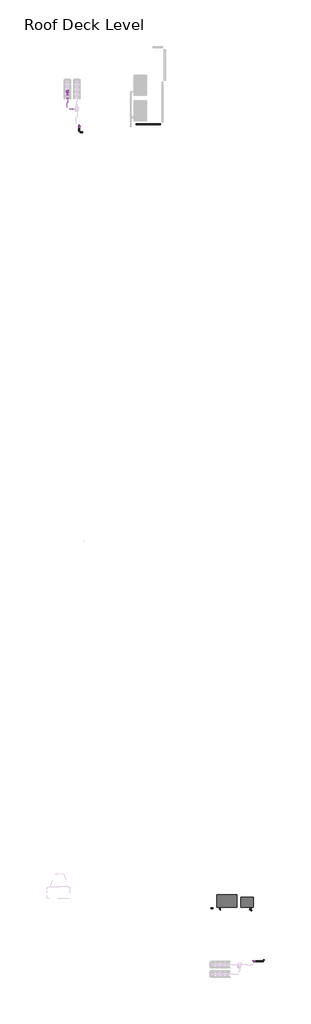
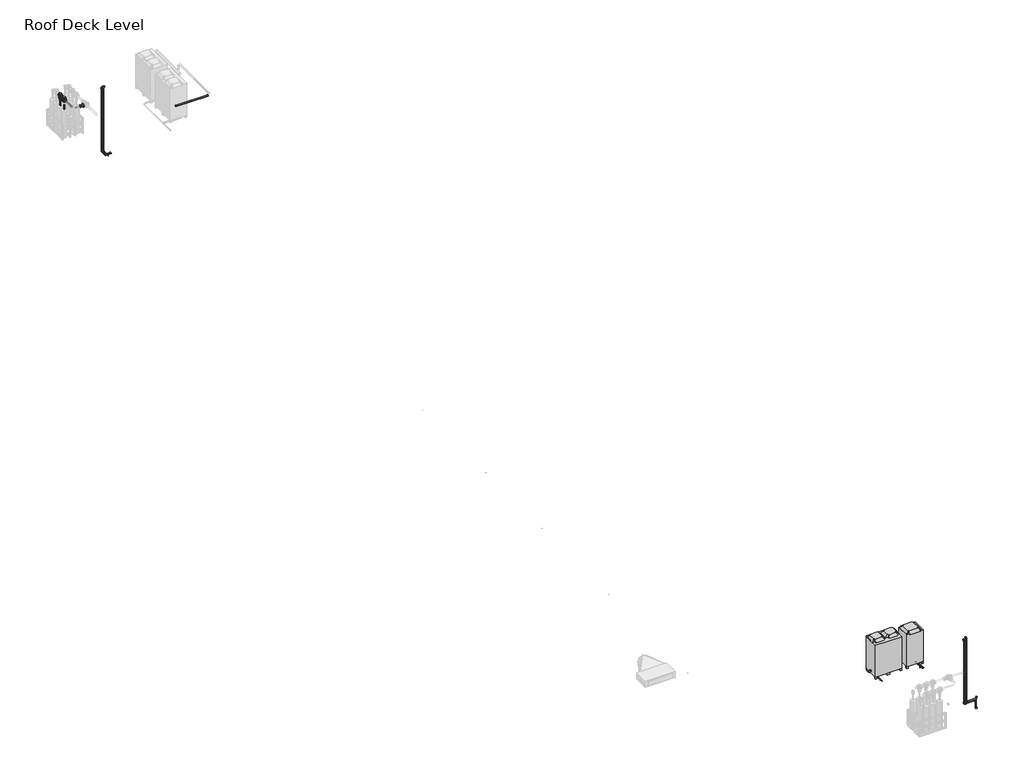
# One storey, part 2 of 3: 27 pipe fittings, 27 pipe segments, 2 proxies.
"""IFC4 building model written with IfcOpenShell, lengths in millimetres."""

from ifc_helpers import new_model, si_unit, point, frame, frame_2d, origin, place, context, project, spatial, circle_curve, trimmed, segment, composite_curve, outline, extrude, transform, mapped, element, save
from components import mechanical_equipment_0a6ad74e, mechanical_equipment_ce02502f, m_bend_pvc_sch_40_dwv_standard_cad9babd, m_elbow_generic_standard_bb5ffebe, m_elbow_generic_standard_738589b0, m_elbow_generic_standard_f0c60a04, m_reducer_flanged_cs_class_150_standard_6ae1fdcb, m_reducer_flanged_cs_class_150_standard_777fbdd8, m_tee_generic_standard_5078887e, m_tee_generic_standard_bbfc025c, m_tee_round_base_flanged_cs_class_150_standard_9c9133d0, m_transition_generic_standard_a7d161d7, m_transition_generic_standard_5f8a9689, m_transition_generic_standard_2351da66, m_transition_generic_standard_22c7c9f4, m_transition_generic_standard_e868cdd7, standard_57727813, standard_102e5625

model = new_model("IFC4")

# Units and contexts
model_context = context("Model", 3, world=origin())
ifc_project = project(units=[si_unit("LENGTHUNIT", "METRE", prefix="MILLI")], contexts=[model_context])

# Site, building, storey
site = spatial("IfcSite", under=ifc_project)
building = spatial("IfcBuilding", under=site)
storey = spatial("IfcBuildingStorey", under=building, Name="Roof Deck Level", Elevation=4400.0)

# Proxies
placement = place(None, origin())
mechanical_equipment_shape = mechanical_equipment_0a6ad74e(model_context)
element("IfcBuildingElementProxy", 1, Name="Condenser-Daikin-RXYQ5-8-10-12P : INVALID TYPE - Use Load Family and Type Catalog Instead", ObjectType="Condenser-Daikin-RXYQ5-8-10-12P : INVALID TYPE - Use Load Family and Type Catalog Instead", at=placement, inside=storey, context=model_context, shape_type="MappedRepresentation", body=[
    mapped(mechanical_equipment_shape, transform((4557.5244316, -32172.0946353, 4650.0), x_axis=(0.0, 1.0, 0.0), y_axis=(-1.0, 0.0, 0.0), z_axis=(0.0, 0.0, 1.0))),
])
mechanical_equipment_2_shape = mechanical_equipment_ce02502f(model_context)
element("IfcBuildingElementProxy", 2, Name="Condenser-Daikin-RXYQ14-16-18P : RXYQ14P, 400v/50Hz/3Ph", ObjectType="Condenser-Daikin-RXYQ14-16-18P : RXYQ14P, 400v/50Hz/3Ph", at=placement, inside=storey, context=model_context, shape_type="MappedRepresentation", body=[
    mapped(mechanical_equipment_2_shape, transform((3320.1659448, -32107.0946353, 4650.0), x_axis=(1.0, 0.0, 0.0), y_axis=(0.0, 1.0, 0.0), z_axis=(0.0, 0.0, 1.0))),
])

# Pipe fittings
m_bend_pvc_sch_40_dwv_standard_shape = m_bend_pvc_sch_40_dwv_standard_cad9babd(model_context)
element("IfcPipeFitting", 3, ObjectType="M_Bend - PVC - Sch 40 - DWV : Standard", at=placement, inside=storey, context=model_context, shape_type="MappedRepresentation", body=[
    mapped(m_bend_pvc_sch_40_dwv_standard_shape, transform((2381.9230162, -32554.2948449, 5200.0), x_axis=(-1.0, 0.0, 0.0), y_axis=(0.0, 0.0, -1.0), z_axis=(0.0, -1.0, 0.0))),
])
m_elbow_generic_standard_shape = m_elbow_generic_standard_bb5ffebe(model_context)
element("IfcPipeFitting", 4, ObjectType="M_Elbow - Generic : Standard", at=placement, inside=storey, context=model_context, shape_type="MappedRepresentation", body=[
    mapped(m_elbow_generic_standard_shape, transform((2867.2893107, -32322.8712695, 4621.4908765), x_axis=(-1.0, 0.0, 0.0), y_axis=(0.0, -1.0, 0.0), z_axis=(0.0, 0.0, 1.0))),
])
element("IfcPipeFitting", 5, ObjectType="M_Elbow - Generic : Standard", at=placement, inside=storey, context=model_context, shape_type="MappedRepresentation", body=[
    mapped(m_elbow_generic_standard_shape, transform((2911.2893107, -32322.8712695, 4621.4908765), x_axis=(0.0, 0.0, -1.0), y_axis=(-1.0, 0.0, 0.0), z_axis=(0.0, 1.0, 0.0))),
])
m_elbow_generic_standard_2_shape = m_elbow_generic_standard_738589b0(model_context)
element("IfcPipeFitting", 6, ObjectType="M_Elbow - Generic : Standard", at=placement, inside=storey, context=model_context, shape_type="MappedRepresentation", body=[
    mapped(m_elbow_generic_standard_2_shape, transform((4741.5205946, -32248.2907983, 4621.4908765), x_axis=(0.0, 0.0, -1.0), y_axis=(0.0, -1.0, 0.0), z_axis=(-1.0, 0.0, 0.0))),
])
element("IfcPipeFitting", 7, ObjectType="M_Elbow - Generic : Standard", at=placement, inside=storey, context=model_context, shape_type="MappedRepresentation", body=[
    mapped(m_elbow_generic_standard_2_shape, transform((4827.3282685, -32333.9984723, 4591.0863665), x_axis=(0.0, 0.0, -1.0), y_axis=(0.0, -1.0, 0.0), z_axis=(-1.0, 0.0, 0.0))),
])
m_elbow_generic_standard_3_shape = m_elbow_generic_standard_f0c60a04(model_context)
element("IfcPipeFitting", 8, ObjectType="M_Elbow - Generic : Standard", at=placement, inside=storey, context=model_context, shape_type="MappedRepresentation", body=[
    mapped(m_elbow_generic_standard_3_shape, transform((2911.3621079, -32360.9984723, 4591.0863665), x_axis=(0.0, 0.0, -1.0), y_axis=(0.0, -1.0, 0.0), z_axis=(-1.0, 0.0, 0.0))),
])
m_reducer_flanged_cs_class_150_standard_shape = m_reducer_flanged_cs_class_150_standard_6ae1fdcb(model_context)
element("IfcPipeFitting", 9, ObjectType="M_Reducer - Flanged - CS - Class 150 : Standard", at=placement, inside=storey, context=model_context, shape_type="MappedRepresentation", body=[
    mapped(m_reducer_flanged_cs_class_150_standard_shape, transform((-6562.8546656, 17889.6611936, 6293.9014063), x_axis=(0.0, 0.0, -1.0), y_axis=(-1.0, 0.0, 0.0), z_axis=(0.0, 1.0, 0.0))),
])
m_reducer_flanged_cs_class_150_standard_2_shape = m_reducer_flanged_cs_class_150_standard_777fbdd8(model_context)
element("IfcPipeFitting", 10, ObjectType="M_Reducer - Flanged - CS - Class 150 : Standard", at=placement, inside=storey, context=model_context, shape_type="MappedRepresentation", body=[
    mapped(m_reducer_flanged_cs_class_150_standard_2_shape, transform((-6105.130502, 16818.7625998, 6400.0), x_axis=(-1.0, 0.0, 0.0), y_axis=(0.0, -1.0, 0.0), z_axis=(0.0, 0.0, 1.0))),
])
m_tee_generic_standard_shape = m_tee_generic_standard_5078887e(model_context)
element("IfcPipeFitting", 11, ObjectType="M_Tee - Generic : Standard", at=placement, inside=storey, context=model_context, shape_type="MappedRepresentation", body=[
    mapped(m_tee_generic_standard_shape, transform((4827.3282685, -32691.5527522, 4591.0863665), x_axis=(1.0, 0.0, 0.0), y_axis=(0.0, -1.0, 0.0), z_axis=(0.0, 0.0, -1.0))),
])
m_tee_generic_standard_2_shape = m_tee_generic_standard_bbfc025c(model_context)
element("IfcPipeFitting", 12, ObjectType="M_Tee - Generic : Standard", at=placement, inside=storey, context=model_context, shape_type="MappedRepresentation", body=[
    mapped(m_tee_generic_standard_2_shape, transform((4741.5205946, -32638.716218, 4621.4908765), x_axis=(-1.0, 0.0, 0.0), y_axis=(0.0, -1.0, 0.0), z_axis=(0.0, 0.0, 1.0))),
])
m_tee_round_base_flanged_cs_class_150_standard_shape = m_tee_round_base_flanged_cs_class_150_standard_9c9133d0(model_context)
element("IfcPipeFitting", 13, ObjectType="M_Tee Round Base - Flanged - CS - Class 150 : Standard", at=placement, inside=storey, context=model_context, shape_type="MappedRepresentation", body=[
    mapped(m_tee_round_base_flanged_cs_class_150_standard_shape, transform((-6562.8546656, 17889.6611936, 6400.0), x_axis=(0.0, 1.0, 0.0), y_axis=(0.0, 0.0, 1.0), z_axis=(1.0, 0.0, 0.0))),
])
element("IfcPipeFitting", 14, ObjectType="M_Tee Round Base - Flanged - CS - Class 150 : Standard", at=placement, inside=storey, context=model_context, shape_type="MappedRepresentation", body=[
    mapped(m_tee_round_base_flanged_cs_class_150_standard_shape, transform((-6562.8546656, 17584.8611936, 6400.0), x_axis=(0.0, -1.0, 0.0), y_axis=(0.0, 0.0, 1.0), z_axis=(-1.0, 0.0, 0.0))),
])
m_transition_generic_standard_shape = m_transition_generic_standard_a7d161d7(model_context)
element("IfcPipeFitting", 15, ObjectType="M_Transition - Generic : Standard", at=placement, inside=storey, context=model_context, shape_type="MappedRepresentation", body=[
    mapped(m_transition_generic_standard_shape, transform((4803.5157685, -32691.5527522, 4591.0863665), x_axis=(-1.0, 0.0, 0.0), y_axis=(0.0, -1.0, 0.0), z_axis=(0.0, 0.0, 1.0))),
])
m_transition_generic_standard_2_shape = m_transition_generic_standard_5f8a9689(model_context)
element("IfcPipeFitting", 16, ObjectType="M_Transition - Generic : Standard", at=placement, inside=storey, context=model_context, shape_type="MappedRepresentation", body=[
    mapped(m_transition_generic_standard_2_shape, transform((4851.1407685, -32691.5527522, 4591.0863665), x_axis=(1.0, 0.0, 0.0), y_axis=(0.0, 1.0, 0.0), z_axis=(0.0, 0.0, 1.0))),
])
m_transition_generic_standard_3_shape = m_transition_generic_standard_2351da66(model_context)
element("IfcPipeFitting", 17, ObjectType="M_Transition - Generic : Standard", at=placement, inside=storey, context=model_context, shape_type="MappedRepresentation", body=[
    mapped(m_transition_generic_standard_3_shape, transform((4741.5205946, -32613.316218, 4621.4908765), x_axis=(0.0, 1.0, 0.0), y_axis=(-1.0, 0.0, 0.0), z_axis=(0.0, 0.0, 1.0))),
])
m_transition_generic_standard_4_shape = m_transition_generic_standard_22c7c9f4(model_context)
element("IfcPipeFitting", 18, ObjectType="M_Transition - Generic : Standard", at=placement, inside=storey, context=model_context, shape_type="MappedRepresentation", body=[
    mapped(m_transition_generic_standard_4_shape, transform((4716.1205946, -32638.716218, 4621.4908765), x_axis=(-1.0, 0.0, 0.0), y_axis=(0.0, -1.0, 0.0), z_axis=(0.0, 0.0, 1.0))),
])
m_transition_generic_standard_5_shape = m_transition_generic_standard_e868cdd7(model_context)
element("IfcPipeFitting", 19, ObjectType="M_Transition - Generic : Standard", at=placement, inside=storey, context=model_context, shape_type="MappedRepresentation", body=[
    mapped(m_transition_generic_standard_5_shape, transform((2911.3621079, -32360.9984723, 4708.7502), x_axis=(0.0, 0.0, 1.0), y_axis=(0.0, 1.0, 0.0), z_axis=(-1.0, 0.0, 0.0))),
])
standard_shape = standard_57727813(model_context)
element("IfcPipeFitting", 20, ObjectType="M_Elbow - CPVC - Sch 40 : Standard", at=placement, inside=storey, context=model_context, shape_type="MappedRepresentation", body=[
    mapped(standard_shape, transform((5045.1617227, -35819.459752, 4719.8375), x_axis=(-1.0, 0.0, 0.0), y_axis=(0.0, 0.0, 1.0), z_axis=(0.0, 1.0, 0.0))),
])
element("IfcPipeFitting", 21, ObjectType="M_Elbow - CPVC - Sch 40 : Standard", at=placement, inside=storey, context=model_context, shape_type="MappedRepresentation", body=[
    mapped(standard_shape, transform((5045.1617227, -35819.459752, 7892.2), x_axis=(0.0, 0.0, 1.0), y_axis=(0.0, 1.0, 0.0), z_axis=(-1.0, 0.0, 0.0))),
])
element("IfcPipeFitting", 22, ObjectType="M_Elbow - CPVC - Sch 40 : Standard", at=placement, inside=storey, context=model_context, shape_type="MappedRepresentation", body=[
    mapped(standard_shape, transform((-5831.0029399, 15689.9865561, 4719.8375), x_axis=(0.0, 1.0, 0.0), y_axis=(0.0, 0.0, 1.0), z_axis=(1.0, 0.0, 0.0))),
])
element("IfcPipeFitting", 23, ObjectType="M_Elbow - CPVC - Sch 40 : Standard", at=placement, inside=storey, context=model_context, shape_type="MappedRepresentation", body=[
    mapped(standard_shape, transform((-5831.0029399, 15689.9865561, 7892.2), x_axis=(0.0, 0.0, 1.0), y_axis=(1.0, 0.0, 0.0), z_axis=(0.0, 1.0, 0.0))),
])
standard_2_shape = standard_102e5625(model_context)
element("IfcPipeFitting", 24, ObjectType="M_Elbow - CPVC - Sch 40 : Standard", at=placement, inside=storey, context=model_context, shape_type="MappedRepresentation", body=[
    mapped(standard_2_shape, transform((4953.4766944, -35819.459752, 4650.0), x_axis=(-1.0, 0.0, 0.0), y_axis=(0.0, 0.0, 1.0), z_axis=(0.0, 1.0, 0.0))),
])
element("IfcPipeFitting", 25, ObjectType="M_Elbow - CPVC - Sch 40 : Standard", at=placement, inside=storey, context=model_context, shape_type="MappedRepresentation", body=[
    mapped(standard_2_shape, transform((4953.4766944, -35819.459752, 7820.0), x_axis=(0.0, 0.0, 1.0), y_axis=(0.0, 1.0, 0.0), z_axis=(-1.0, 0.0, 0.0))),
])
element("IfcPipeFitting", 26, ObjectType="M_Elbow - CPVC - Sch 40 : Standard", at=placement, inside=storey, context=model_context, shape_type="MappedRepresentation", body=[
    mapped(standard_2_shape, transform((-5831.0029399, 15789.9865561, 4650.0), x_axis=(0.0, 1.0, 0.0), y_axis=(0.0, 0.0, 1.0), z_axis=(1.0, 0.0, 0.0))),
])
element("IfcPipeFitting", 27, ObjectType="M_Elbow - CPVC - Sch 40 : Standard", at=placement, inside=storey, context=model_context, shape_type="MappedRepresentation", body=[
    mapped(standard_2_shape, transform((-5831.0029399, 15789.9865561, 7820.0), x_axis=(0.0, 0.0, 1.0), y_axis=(1.0, 0.0, 0.0), z_axis=(0.0, 1.0, 0.0))),
])
element("IfcPipeFitting", 28, ObjectType="M_Elbow - CPVC - Sch 40 : Standard", at=placement, inside=storey, context=model_context, shape_type="MappedRepresentation", body=[
    mapped(standard_2_shape, transform((5495.7577444, -35819.459752, 4650.0), x_axis=(1.0, 0.0, 0.0), y_axis=(0.0, 0.0, -1.0), z_axis=(0.0, 1.0, 0.0))),
])
element("IfcPipeFitting", 29, ObjectType="M_Elbow - CPVC - Sch 40 : Standard", at=placement, inside=storey, context=model_context, shape_type="MappedRepresentation", body=[
    mapped(standard_2_shape, transform((5495.7577444, -35819.459752, 4250.0), x_axis=(0.0, 0.0, -1.0), y_axis=(1.0, 0.0, 0.0), z_axis=(0.0, -1.0, 0.0))),
])

# Pipe segments
element("IfcPipeSegment", 30, ObjectType="CPVC", at=placement, inside=storey, context=model_context, shape_type="SweptSolid", body=[
    extrude(outline(composite_curve([segment(trimmed(circle_curve(frame_2d((15389.9865561, 4650.0)), 24.13), [point((15414.1165561, 4650.0))], [point((15389.9865561, 4625.87))], False, "CARTESIAN"), True, "CONTINUOUS"), segment(trimmed(circle_curve(frame_2d((15389.9865561, 4650.0)), 24.13), [point((15389.9865561, 4625.87))], [point((15365.8565561, 4650.0))], False, "CARTESIAN"), True, "CONTINUOUS"), segment(trimmed(circle_curve(frame_2d((15389.9865561, 4650.0)), 24.13), [point((15365.8565561, 4650.0))], [point((15389.9865561, 4674.13))], False, "CARTESIAN"), True, "CONTINUOUS"), segment(trimmed(circle_curve(frame_2d((15389.9865561, 4650.0)), 24.13), [point((15389.9865561, 4674.13))], [point((15414.1165561, 4650.0))], False, "CARTESIAN"), True, "CONTINUOUS")], self_intersect=False)), frame((-5768.2839899, 0.0, 0.0), z_axis=(1.0, 0.0, 0.0), x_axis=(0.0, 1.0, 0.0)), (0.0, 0.0, 1.0), 7.2590252),
])
element("IfcPipeSegment", 31, ObjectType="CPVC", at=placement, inside=storey, context=model_context, shape_type="SweptSolid", body=[
    extrude(outline(composite_curve([segment(trimmed(circle_curve(frame_2d((15389.9865561, 4719.8375)), 30.1625), [point((15420.1490561, 4719.8375))], [point((15389.9865561, 4689.675))], False, "CARTESIAN"), True, "CONTINUOUS"), segment(trimmed(circle_curve(frame_2d((15389.9865561, 4719.8375)), 30.1625), [point((15389.9865561, 4689.675))], [point((15359.8240561, 4719.8375))], False, "CARTESIAN"), True, "CONTINUOUS"), segment(trimmed(circle_curve(frame_2d((15389.9865561, 4719.8375)), 30.1625), [point((15359.8240561, 4719.8375))], [point((15389.9865561, 4750.0))], False, "CARTESIAN"), True, "CONTINUOUS"), segment(trimmed(circle_curve(frame_2d((15389.9865561, 4719.8375)), 30.1625), [point((15389.9865561, 4750.0))], [point((15420.1490561, 4719.8375))], False, "CARTESIAN"), True, "CONTINUOUS")], self_intersect=False)), frame((-5766.7091899, 0.0, 0.0), z_axis=(1.0, 0.0, 0.0), x_axis=(0.0, 1.0, 0.0)), (0.0, 0.0, 1.0), 141.7006806),
])
element("IfcPipeSegment", 32, ObjectType="CPVC", at=placement, inside=storey, context=model_context, shape_type="SweptSolid", body=[
    extrude(outline(composite_curve([segment(trimmed(circle_curve(frame_2d((4719.8375, -5831.0029399)), 30.1625), [point((4719.8375, -5800.8404399))], [point((4750.0, -5831.0029399))], False, "CARTESIAN"), True, "CONTINUOUS"), segment(trimmed(circle_curve(frame_2d((4719.8375, -5831.0029399)), 30.1625), [point((4750.0, -5831.0029399))], [point((4719.8375, -5861.1654399))], False, "CARTESIAN"), True, "CONTINUOUS"), segment(trimmed(circle_curve(frame_2d((4719.8375, -5831.0029399)), 30.1625), [point((4719.8375, -5861.1654399))], [point((4689.675, -5831.0029399))], False, "CARTESIAN"), True, "CONTINUOUS"), segment(trimmed(circle_curve(frame_2d((4719.8375, -5831.0029399)), 30.1625), [point((4689.675, -5831.0029399))], [point((4719.8375, -5800.8404399))], False, "CARTESIAN"), True, "CONTINUOUS")], self_intersect=False)), frame((0.0, 15454.2803061, 0.0), z_axis=(0.0, 1.0, 0.0), x_axis=(0.0, 0.0, 1.0)), (0.0, 0.0, 1.0), 171.4125),
])
element("IfcPipeSegment", 33, ObjectType="CPVC", at=placement, inside=storey, context=model_context, shape_type="SweptSolid", body=[
    extrude(outline(composite_curve([segment(trimmed(circle_curve(frame_2d((4650.0, -5831.0029399)), 24.13), [point((4650.0, -5806.8729399))], [point((4674.13, -5831.0029399))], False, "CARTESIAN"), True, "CONTINUOUS"), segment(trimmed(circle_curve(frame_2d((4650.0, -5831.0029399)), 24.13), [point((4674.13, -5831.0029399))], [point((4650.0, -5855.1329399))], False, "CARTESIAN"), True, "CONTINUOUS"), segment(trimmed(circle_curve(frame_2d((4650.0, -5831.0029399)), 24.13), [point((4650.0, -5855.1329399))], [point((4625.87, -5831.0029399))], False, "CARTESIAN"), True, "CONTINUOUS"), segment(trimmed(circle_curve(frame_2d((4650.0, -5831.0029399)), 24.13), [point((4625.87, -5831.0029399))], [point((4650.0, -5806.8729399))], False, "CARTESIAN"), True, "CONTINUOUS")], self_intersect=False)), frame((0.0, 15452.7055061, 0.0), z_axis=(0.0, 1.0, 0.0), x_axis=(0.0, 0.0, 1.0)), (0.0, 0.0, 1.0), 274.5621),
])
element("IfcPipeSegment", 34, ObjectType="CPVC", at=placement, inside=storey, context=model_context, shape_type="SweptSolid", body=[
    extrude(outline(composite_curve([segment(trimmed(circle_curve(frame_2d((4719.8375, 5585.1617227)), 30.1625), [point((4719.8375, 5554.9992227))], [point((4689.675, 5585.1617227))], False, "CARTESIAN"), True, "CONTINUOUS"), segment(trimmed(circle_curve(frame_2d((4719.8375, 5585.1617227)), 30.1625), [point((4689.675, 5585.1617227))], [point((4719.8375, 5615.3242227))], False, "CARTESIAN"), True, "CONTINUOUS"), segment(trimmed(circle_curve(frame_2d((4719.8375, 5585.1617227)), 30.1625), [point((4719.8375, 5615.3242227))], [point((4750.0, 5585.1617227))], False, "CARTESIAN"), True, "CONTINUOUS"), segment(trimmed(circle_curve(frame_2d((4719.8375, 5585.1617227)), 30.1625), [point((4750.0, 5585.1617227))], [point((4719.8375, 5554.9992227))], False, "CARTESIAN"), True, "CONTINUOUS")], self_intersect=False)), frame((0.0, -35755.166002, 0.0), z_axis=(0.0, 1.0, 0.0), x_axis=(0.0, 0.0, 1.0)), (0.0, 0.0, 1.0), 37.3171752),
])
element("IfcPipeSegment", 35, ObjectType="CPVC", at=placement, inside=storey, context=model_context, shape_type="SweptSolid", body=[
    extrude(outline(composite_curve([segment(trimmed(circle_curve(frame_2d((-35819.459752, 4719.8375)), 30.1625), [point((-35789.297252, 4719.8375))], [point((-35819.459752, 4689.675))], False, "CARTESIAN"), True, "CONTINUOUS"), segment(trimmed(circle_curve(frame_2d((-35819.459752, 4719.8375)), 30.1625), [point((-35819.459752, 4689.675))], [point((-35849.622252, 4719.8375))], False, "CARTESIAN"), True, "CONTINUOUS"), segment(trimmed(circle_curve(frame_2d((-35819.459752, 4719.8375)), 30.1625), [point((-35849.622252, 4719.8375))], [point((-35819.459752, 4750.0))], False, "CARTESIAN"), True, "CONTINUOUS"), segment(trimmed(circle_curve(frame_2d((-35819.459752, 4719.8375)), 30.1625), [point((-35819.459752, 4750.0))], [point((-35789.297252, 4719.8375))], False, "CARTESIAN"), True, "CONTINUOUS")], self_intersect=False)), frame((5109.4554727, 0.0, 0.0), z_axis=(1.0, 0.0, 0.0), x_axis=(0.0, 1.0, 0.0)), (0.0, 0.0, 1.0), 411.4125),
])
element("IfcPipeSegment", 36, ObjectType="CPVC", at=placement, inside=storey, context=model_context, shape_type="SweptSolid", body=[
    extrude(outline(composite_curve([segment(trimmed(circle_curve(frame_2d((-35819.459752, 4650.0)), 24.13), [point((-35795.329752, 4650.0))], [point((-35819.459752, 4625.87))], False, "CARTESIAN"), True, "CONTINUOUS"), segment(trimmed(circle_curve(frame_2d((-35819.459752, 4650.0)), 24.13), [point((-35819.459752, 4625.87))], [point((-35843.589752, 4650.0))], False, "CARTESIAN"), True, "CONTINUOUS"), segment(trimmed(circle_curve(frame_2d((-35819.459752, 4650.0)), 24.13), [point((-35843.589752, 4650.0))], [point((-35819.459752, 4674.13))], False, "CARTESIAN"), True, "CONTINUOUS"), segment(trimmed(circle_curve(frame_2d((-35819.459752, 4650.0)), 24.13), [point((-35819.459752, 4674.13))], [point((-35795.329752, 4650.0))], False, "CARTESIAN"), True, "CONTINUOUS")], self_intersect=False)), frame((5016.1956444, 0.0, 0.0), z_axis=(1.0, 0.0, 0.0), x_axis=(0.0, 1.0, 0.0)), (0.0, 0.0, 1.0), 416.84315),
])
element("IfcPipeSegment", 37, ObjectType="CPVC", at=placement, inside=storey, context=model_context, shape_type="SweptSolid", body=[
    extrude(outline(composite_curve([segment(trimmed(circle_curve(frame_2d((4953.4766944, -35819.459752)), 24.13), [point((4929.3466944, -35819.459752))], [point((4953.4766944, -35795.329752))], False, "CARTESIAN"), True, "CONTINUOUS"), segment(trimmed(circle_curve(frame_2d((4953.4766944, -35819.459752)), 24.13), [point((4953.4766944, -35795.329752))], [point((4977.6066944, -35819.459752))], False, "CARTESIAN"), True, "CONTINUOUS"), segment(trimmed(circle_curve(frame_2d((4953.4766944, -35819.459752)), 24.13), [point((4977.6066944, -35819.459752))], [point((4953.4766944, -35843.589752))], False, "CARTESIAN"), True, "CONTINUOUS"), segment(trimmed(circle_curve(frame_2d((4953.4766944, -35819.459752)), 24.13), [point((4953.4766944, -35843.589752))], [point((4929.3466944, -35819.459752))], False, "CARTESIAN"), True, "CONTINUOUS")], self_intersect=False)), frame((0.0, 0.0, 4712.71895), z_axis=(0.0, 0.0, 1.0), x_axis=(1.0, 0.0, 0.0)), (0.0, 0.0, 1.0), 3044.5621),
])
element("IfcPipeSegment", 38, ObjectType="CPVC", at=placement, inside=storey, context=model_context, shape_type="SweptSolid", body=[
    extrude(outline(composite_curve([segment(trimmed(circle_curve(frame_2d((5045.1617227, -35819.459752)), 30.1625), [point((5014.9992227, -35819.459752))], [point((5045.1617227, -35789.297252))], False, "CARTESIAN"), True, "CONTINUOUS"), segment(trimmed(circle_curve(frame_2d((5045.1617227, -35819.459752)), 30.1625), [point((5045.1617227, -35789.297252))], [point((5075.3242227, -35819.459752))], False, "CARTESIAN"), True, "CONTINUOUS"), segment(trimmed(circle_curve(frame_2d((5045.1617227, -35819.459752)), 30.1625), [point((5075.3242227, -35819.459752))], [point((5045.1617227, -35849.622252))], False, "CARTESIAN"), True, "CONTINUOUS"), segment(trimmed(circle_curve(frame_2d((5045.1617227, -35819.459752)), 30.1625), [point((5045.1617227, -35849.622252))], [point((5014.9992227, -35819.459752))], False, "CARTESIAN"), True, "CONTINUOUS")], self_intersect=False)), frame((0.0, 0.0, 4784.13125), z_axis=(0.0, 0.0, 1.0), x_axis=(1.0, 0.0, 0.0)), (0.0, 0.0, 1.0), 3043.775),
])
element("IfcPipeSegment", 39, ObjectType="CPVC", at=placement, inside=storey, context=model_context, shape_type="SweptSolid", body=[
    extrude(outline(composite_curve([segment(trimmed(circle_curve(frame_2d((-5831.0029399, 15689.9865561)), 30.1625), [point((-5861.1654399, 15689.9865561))], [point((-5831.0029399, 15720.1490561))], False, "CARTESIAN"), True, "CONTINUOUS"), segment(trimmed(circle_curve(frame_2d((-5831.0029399, 15689.9865561)), 30.1625), [point((-5831.0029399, 15720.1490561))], [point((-5800.8404399, 15689.9865561))], False, "CARTESIAN"), True, "CONTINUOUS"), segment(trimmed(circle_curve(frame_2d((-5831.0029399, 15689.9865561)), 30.1625), [point((-5800.8404399, 15689.9865561))], [point((-5831.0029399, 15659.8240561))], False, "CARTESIAN"), True, "CONTINUOUS"), segment(trimmed(circle_curve(frame_2d((-5831.0029399, 15689.9865561)), 30.1625), [point((-5831.0029399, 15659.8240561))], [point((-5861.1654399, 15689.9865561))], False, "CARTESIAN"), True, "CONTINUOUS")], self_intersect=False)), frame((0.0, 0.0, 4784.13125), z_axis=(0.0, 0.0, 1.0), x_axis=(1.0, 0.0, 0.0)), (0.0, 0.0, 1.0), 3043.775),
])
element("IfcPipeSegment", 40, ObjectType="CPVC", at=placement, inside=storey, context=model_context, shape_type="SweptSolid", body=[
    extrude(outline(composite_curve([segment(trimmed(circle_curve(frame_2d((-5831.0029399, 15789.9865561)), 24.13), [point((-5855.1329399, 15789.9865561))], [point((-5831.0029399, 15814.1165561))], False, "CARTESIAN"), True, "CONTINUOUS"), segment(trimmed(circle_curve(frame_2d((-5831.0029399, 15789.9865561)), 24.13), [point((-5831.0029399, 15814.1165561))], [point((-5806.8729399, 15789.9865561))], False, "CARTESIAN"), True, "CONTINUOUS"), segment(trimmed(circle_curve(frame_2d((-5831.0029399, 15789.9865561)), 24.13), [point((-5806.8729399, 15789.9865561))], [point((-5831.0029399, 15765.8565561))], False, "CARTESIAN"), True, "CONTINUOUS"), segment(trimmed(circle_curve(frame_2d((-5831.0029399, 15789.9865561)), 24.13), [point((-5831.0029399, 15765.8565561))], [point((-5855.1329399, 15789.9865561))], False, "CARTESIAN"), True, "CONTINUOUS")], self_intersect=False)), frame((0.0, 0.0, 4712.71895), z_axis=(0.0, 0.0, 1.0), x_axis=(1.0, 0.0, 0.0)), (0.0, 0.0, 1.0), 3044.5621),
])
element("IfcPipeSegment", 41, ObjectType="CPVC", at=placement, inside=storey, context=model_context, shape_type="SweptSolid", body=[
    extrude(outline(composite_curve([segment(trimmed(circle_curve(frame_2d((5495.7577444, -35819.459752)), 24.13), [point((5519.8877444, -35819.459752))], [point((5495.7577444, -35843.589752))], False, "CARTESIAN"), True, "CONTINUOUS"), segment(trimmed(circle_curve(frame_2d((5495.7577444, -35819.459752)), 24.13), [point((5495.7577444, -35843.589752))], [point((5471.6277444, -35819.459752))], False, "CARTESIAN"), True, "CONTINUOUS"), segment(trimmed(circle_curve(frame_2d((5495.7577444, -35819.459752)), 24.13), [point((5471.6277444, -35819.459752))], [point((5495.7577444, -35795.329752))], False, "CARTESIAN"), True, "CONTINUOUS"), segment(trimmed(circle_curve(frame_2d((5495.7577444, -35819.459752)), 24.13), [point((5495.7577444, -35795.329752))], [point((5519.8877444, -35819.459752))], False, "CARTESIAN"), True, "CONTINUOUS")], self_intersect=False)), frame((0.0, 0.0, 4312.71895), z_axis=(0.0, 0.0, 1.0), x_axis=(1.0, 0.0, 0.0)), (0.0, 0.0, 1.0), 274.5621),
])
element("IfcPipeSegment", 42, ObjectType="Copper", at=placement, inside=storey, context=model_context, shape_type="SweptSolid", body=[
    extrude(outline(composite_curve([segment(trimmed(circle_curve(frame_2d((4741.5205946, -32248.2907983)), 9.75), [point((4751.2705946, -32248.2907983))], [point((4741.5205946, -32258.0407983))], False, "CARTESIAN"), True, "CONTINUOUS"), segment(trimmed(circle_curve(frame_2d((4741.5205946, -32248.2907983)), 9.75), [point((4741.5205946, -32258.0407983))], [point((4731.7705946, -32248.2907983))], False, "CARTESIAN"), True, "CONTINUOUS"), segment(trimmed(circle_curve(frame_2d((4741.5205946, -32248.2907983)), 9.75), [point((4731.7705946, -32248.2907983))], [point((4741.5205946, -32238.5407983))], False, "CARTESIAN"), True, "CONTINUOUS"), segment(trimmed(circle_curve(frame_2d((4741.5205946, -32248.2907983)), 9.75), [point((4741.5205946, -32238.5407983))], [point((4751.2705946, -32248.2907983))], False, "CARTESIAN"), True, "CONTINUOUS")], self_intersect=False)), frame((0.0, 0.0, 4638.9533765), z_axis=(0.0, 0.0, 1.0), x_axis=(1.0, 0.0, 0.0)), (0.0, 0.0, 1.0), 72.9718235),
])
element("IfcPipeSegment", 43, ObjectType="Copper", at=placement, inside=storey, context=model_context, shape_type="SweptSolid", body=[
    extrude(outline(composite_curve([segment(trimmed(circle_curve(frame_2d((4621.4908765, 4741.5205946)), 9.75), [point((4621.4908765, 4731.7705946))], [point((4611.7408765, 4741.5205946))], False, "CARTESIAN"), True, "CONTINUOUS"), segment(trimmed(circle_curve(frame_2d((4621.4908765, 4741.5205946)), 9.75), [point((4611.7408765, 4741.5205946))], [point((4621.4908765, 4751.2705946))], False, "CARTESIAN"), True, "CONTINUOUS"), segment(trimmed(circle_curve(frame_2d((4621.4908765, 4741.5205946)), 9.75), [point((4621.4908765, 4751.2705946))], [point((4631.2408765, 4741.5205946))], False, "CARTESIAN"), True, "CONTINUOUS"), segment(trimmed(circle_curve(frame_2d((4621.4908765, 4741.5205946)), 9.75), [point((4631.2408765, 4741.5205946))], [point((4621.4908765, 4731.7705946))], False, "CARTESIAN"), True, "CONTINUOUS")], self_intersect=False)), frame((0.0, -32606.966218, 0.0), z_axis=(0.0, 1.0, 0.0), x_axis=(0.0, 0.0, 1.0)), (0.0, 0.0, 1.0), 341.2129197),
])
element("IfcPipeSegment", 44, ObjectType="Copper", at=placement, inside=storey, context=model_context, shape_type="SweptSolid", body=[
    extrude(outline(composite_curve([segment(trimmed(circle_curve(frame_2d((4827.3282685, -32333.9984723)), 9.75), [point((4837.0782685, -32333.9984723))], [point((4827.3282685, -32343.7484723))], False, "CARTESIAN"), True, "CONTINUOUS"), segment(trimmed(circle_curve(frame_2d((4827.3282685, -32333.9984723)), 9.75), [point((4827.3282685, -32343.7484723))], [point((4817.5782685, -32333.9984723))], False, "CARTESIAN"), True, "CONTINUOUS"), segment(trimmed(circle_curve(frame_2d((4827.3282685, -32333.9984723)), 9.75), [point((4817.5782685, -32333.9984723))], [point((4827.3282685, -32324.2484723))], False, "CARTESIAN"), True, "CONTINUOUS"), segment(trimmed(circle_curve(frame_2d((4827.3282685, -32333.9984723)), 9.75), [point((4827.3282685, -32324.2484723))], [point((4837.0782685, -32333.9984723))], False, "CARTESIAN"), True, "CONTINUOUS")], self_intersect=False)), frame((0.0, 0.0, 4608.5488665), z_axis=(0.0, 0.0, 1.0), x_axis=(1.0, 0.0, 0.0)), (0.0, 0.0, 1.0), 103.3763335),
])
element("IfcPipeSegment", 45, ObjectType="Copper", at=placement, inside=storey, context=model_context, shape_type="SweptSolid", body=[
    extrude(outline(composite_curve([segment(trimmed(circle_curve(frame_2d((4591.0863665, 4827.3282685)), 9.75), [point((4591.0863665, 4817.5782685))], [point((4581.3363665, 4827.3282685))], False, "CARTESIAN"), True, "CONTINUOUS"), segment(trimmed(circle_curve(frame_2d((4591.0863665, 4827.3282685)), 9.75), [point((4581.3363665, 4827.3282685))], [point((4591.0863665, 4837.0782685))], False, "CARTESIAN"), True, "CONTINUOUS"), segment(trimmed(circle_curve(frame_2d((4591.0863665, 4827.3282685)), 9.75), [point((4591.0863665, 4837.0782685))], [point((4600.8363665, 4827.3282685))], False, "CARTESIAN"), True, "CONTINUOUS"), segment(trimmed(circle_curve(frame_2d((4591.0863665, 4827.3282685)), 9.75), [point((4600.8363665, 4827.3282685))], [point((4591.0863665, 4817.5782685))], False, "CARTESIAN"), True, "CONTINUOUS")], self_intersect=False)), frame((0.0, -32667.7402522, 0.0), z_axis=(0.0, 1.0, 0.0), x_axis=(0.0, 0.0, 1.0)), (0.0, 0.0, 1.0), 316.27928),
])
element("IfcPipeSegment", 46, ObjectType="Copper", at=placement, inside=storey, context=model_context, shape_type="SweptSolid", body=[
    extrude(outline(composite_curve([segment(trimmed(circle_curve(frame_2d((4621.4908765, 2867.2893107)), 8.1), [point((4621.4908765, 2859.1893107))], [point((4613.3908765, 2867.2893107))], False, "CARTESIAN"), True, "CONTINUOUS"), segment(trimmed(circle_curve(frame_2d((4621.4908765, 2867.2893107)), 8.1), [point((4613.3908765, 2867.2893107))], [point((4621.4908765, 2875.3893107))], False, "CARTESIAN"), True, "CONTINUOUS"), segment(trimmed(circle_curve(frame_2d((4621.4908765, 2867.2893107)), 8.1), [point((4621.4908765, 2875.3893107))], [point((4629.5908765, 2867.2893107))], False, "CARTESIAN"), True, "CONTINUOUS"), segment(trimmed(circle_curve(frame_2d((4621.4908765, 2867.2893107)), 8.1), [point((4629.5908765, 2867.2893107))], [point((4621.4908765, 2859.1893107))], False, "CARTESIAN"), True, "CONTINUOUS")], self_intersect=False)), frame((0.0, -32622.841218, 0.0), z_axis=(0.0, 1.0, 0.0), x_axis=(0.0, 0.0, 1.0)), (0.0, 0.0, 1.0), 284.0949485),
])
element("IfcPipeSegment", 47, ObjectType="Copper", at=placement, inside=storey, context=model_context, shape_type="SweptSolid", body=[
    extrude(outline(composite_curve([segment(trimmed(circle_curve(frame_2d((2911.3621079, -32360.9984723)), 4.9), [point((2916.2621079, -32360.9984723))], [point((2911.3621079, -32365.8984723))], False, "CARTESIAN"), True, "CONTINUOUS"), segment(trimmed(circle_curve(frame_2d((2911.3621079, -32360.9984723)), 4.9), [point((2911.3621079, -32365.8984723))], [point((2906.4621079, -32360.9984723))], False, "CARTESIAN"), True, "CONTINUOUS"), segment(trimmed(circle_curve(frame_2d((2911.3621079, -32360.9984723)), 4.9), [point((2906.4621079, -32360.9984723))], [point((2911.3621079, -32356.0984723))], False, "CARTESIAN"), True, "CONTINUOUS"), segment(trimmed(circle_curve(frame_2d((2911.3621079, -32360.9984723)), 4.9), [point((2911.3621079, -32356.0984723))], [point((2916.2621079, -32360.9984723))], False, "CARTESIAN"), True, "CONTINUOUS")], self_intersect=False)), frame((0.0, 0.0, 4603.7738665), z_axis=(0.0, 0.0, 1.0), x_axis=(1.0, 0.0, 0.0)), (0.0, 0.0, 1.0), 104.9763335),
])
element("IfcPipeSegment", 48, ObjectType="Copper", at=placement, inside=storey, context=model_context, shape_type="SweptSolid", body=[
    extrude(outline(composite_curve([segment(trimmed(circle_curve(frame_2d((4591.0863665, 2911.3621079)), 4.9), [point((4591.0863665, 2906.4621079))], [point((4586.1863665, 2911.3621079))], False, "CARTESIAN"), True, "CONTINUOUS"), segment(trimmed(circle_curve(frame_2d((4591.0863665, 2911.3621079)), 4.9), [point((4586.1863665, 2911.3621079))], [point((4591.0863665, 2916.2621079))], False, "CARTESIAN"), True, "CONTINUOUS"), segment(trimmed(circle_curve(frame_2d((4591.0863665, 2911.3621079)), 4.9), [point((4591.0863665, 2916.2621079))], [point((4595.9863665, 2911.3621079))], False, "CARTESIAN"), True, "CONTINUOUS"), segment(trimmed(circle_curve(frame_2d((4591.0863665, 2911.3621079)), 4.9), [point((4595.9863665, 2911.3621079))], [point((4591.0863665, 2906.4621079))], False, "CARTESIAN"), True, "CONTINUOUS")], self_intersect=False)), frame((0.0, -32678.8652522, 0.0), z_axis=(0.0, 1.0, 0.0), x_axis=(0.0, 0.0, 1.0)), (0.0, 0.0, 1.0), 305.17928),
])
element("IfcPipeSegment", 49, ObjectType="Copper", at=placement, inside=storey, context=model_context, shape_type="SweptSolid", body=[
    extrude(outline(composite_curve([segment(trimmed(circle_curve(frame_2d((-32322.8712695, 4621.4908765)), 8.1), [point((-32330.9712695, 4621.4908765))], [point((-32322.8712695, 4629.5908765))], False, "CARTESIAN"), True, "CONTINUOUS"), segment(trimmed(circle_curve(frame_2d((-32322.8712695, 4621.4908765)), 8.1), [point((-32322.8712695, 4629.5908765))], [point((-32314.7712695, 4621.4908765))], False, "CARTESIAN"), True, "CONTINUOUS"), segment(trimmed(circle_curve(frame_2d((-32322.8712695, 4621.4908765)), 8.1), [point((-32314.7712695, 4621.4908765))], [point((-32322.8712695, 4613.3908765))], False, "CARTESIAN"), True, "CONTINUOUS"), segment(trimmed(circle_curve(frame_2d((-32322.8712695, 4621.4908765)), 8.1), [point((-32322.8712695, 4613.3908765))], [point((-32330.9712695, 4621.4908765))], False, "CARTESIAN"), True, "CONTINUOUS")], self_intersect=False)), frame((2883.1643107, 0.0, 0.0), z_axis=(1.0, 0.0, 0.0), x_axis=(0.0, 1.0, 0.0)), (0.0, 0.0, 1.0), 12.25),
])
element("IfcPipeSegment", 50, ObjectType="PVC - DWV", at=placement, inside=storey, context=model_context, shape_type="SweptSolid", body=[
    extrude(outline(composite_curve([segment(trimmed(circle_curve(frame_2d((-32554.2948449, 5200.0)), 30.1625), [point((-32524.1323449, 5200.0))], [point((-32554.2948449, 5169.8375))], False, "CARTESIAN"), True, "CONTINUOUS"), segment(trimmed(circle_curve(frame_2d((-32554.2948449, 5200.0)), 30.1625), [point((-32554.2948449, 5169.8375))], [point((-32584.4573449, 5200.0))], False, "CARTESIAN"), True, "CONTINUOUS"), segment(trimmed(circle_curve(frame_2d((-32554.2948449, 5200.0)), 30.1625), [point((-32584.4573449, 5200.0))], [point((-32554.2948449, 5230.1625))], False, "CARTESIAN"), True, "CONTINUOUS"), segment(trimmed(circle_curve(frame_2d((-32554.2948449, 5200.0)), 30.1625), [point((-32554.2948449, 5230.1625))], [point((-32524.1323449, 5200.0))], False, "CARTESIAN"), True, "CONTINUOUS")], self_intersect=False)), frame((2439.0730162, 0.0, 0.0), z_axis=(1.0, 0.0, 0.0), x_axis=(0.0, 1.0, 0.0)), (0.0, 0.0, 1.0), 7.7670588),
])
element("IfcPipeSegment", 51, ObjectType="Steel flanged", at=placement, inside=storey, context=model_context, shape_type="SweptSolid", body=[
    extrude(outline(composite_curve([segment(trimmed(circle_curve(frame_2d((15873.00909, 5600.0)), 30.1625), [point((15842.84659, 5600.0))], [point((15873.00909, 5630.1625))], False, "CARTESIAN"), True, "CONTINUOUS"), segment(trimmed(circle_curve(frame_2d((15873.00909, 5600.0)), 30.1625), [point((15873.00909, 5630.1625))], [point((15903.17159, 5600.0))], False, "CARTESIAN"), True, "CONTINUOUS"), segment(trimmed(circle_curve(frame_2d((15873.00909, 5600.0)), 30.1625), [point((15903.17159, 5600.0))], [point((15873.00909, 5569.8375))], False, "CARTESIAN"), True, "CONTINUOUS"), segment(trimmed(circle_curve(frame_2d((15873.00909, 5600.0)), 30.1625), [point((15873.00909, 5569.8375))], [point((15842.84659, 5600.0))], False, "CARTESIAN"), True, "CONTINUOUS")], self_intersect=False)), frame((-2299.9259545, 0.0, 0.0), z_axis=(1.0, 0.0, 0.0), x_axis=(0.0, 1.0, 0.0)), (0.0, 0.0, 1.0), 1514.9761631),
])
element("IfcPipeSegment", 52, ObjectType="Steel flanged", at=placement, inside=storey, context=model_context, shape_type="SweptSolid", body=[
    extrude(outline(composite_curve([segment(trimmed(circle_curve(frame_2d((-6562.8546656, 17584.8611936)), 16.7005), [point((-6579.5551656, 17584.8611936))], [point((-6562.8546656, 17601.5616936))], False, "CARTESIAN"), True, "CONTINUOUS"), segment(trimmed(circle_curve(frame_2d((-6562.8546656, 17584.8611936)), 16.7005), [point((-6562.8546656, 17601.5616936))], [point((-6546.1541656, 17584.8611936))], False, "CARTESIAN"), True, "CONTINUOUS"), segment(trimmed(circle_curve(frame_2d((-6562.8546656, 17584.8611936)), 16.7005), [point((-6546.1541656, 17584.8611936))], [point((-6562.8546656, 17568.1606936))], False, "CARTESIAN"), True, "CONTINUOUS"), segment(trimmed(circle_curve(frame_2d((-6562.8546656, 17584.8611936)), 16.7005), [point((-6562.8546656, 17568.1606936))], [point((-6579.5551656, 17584.8611936))], False, "CARTESIAN"), True, "CONTINUOUS")], self_intersect=False)), frame((0.0, 0.0, 5895.4), z_axis=(0.0, 0.0, 1.0), x_axis=(1.0, 0.0, 0.0)), (0.0, 0.0, 1.0), 284.5014063),
])
element("IfcPipeSegment", 53, ObjectType="Steel flanged", at=placement, inside=storey, context=model_context, shape_type="SweptSolid", body=[
    extrude(outline(composite_curve([segment(trimmed(circle_curve(frame_2d((6400.0, -6562.8546656)), 21.082), [point((6400.0, -6583.9366656))], [point((6378.918, -6562.8546656))], False, "CARTESIAN"), True, "CONTINUOUS"), segment(trimmed(circle_curve(frame_2d((6400.0, -6562.8546656)), 21.082), [point((6378.918, -6562.8546656))], [point((6400.0, -6541.7726656))], False, "CARTESIAN"), True, "CONTINUOUS"), segment(trimmed(circle_curve(frame_2d((6400.0, -6562.8546656)), 21.082), [point((6400.0, -6541.7726656))], [point((6421.082, -6562.8546656))], False, "CARTESIAN"), True, "CONTINUOUS"), segment(trimmed(circle_curve(frame_2d((6400.0, -6562.8546656)), 21.082), [point((6421.082, -6562.8546656))], [point((6400.0, -6583.9366656))], False, "CARTESIAN"), True, "CONTINUOUS")], self_intersect=False)), frame((0.0, 17690.9597873, 0.0), z_axis=(0.0, 1.0, 0.0), x_axis=(0.0, 0.0, 1.0)), (0.0, 0.0, 1.0), 92.6028125),
])
element("IfcPipeSegment", 54, ObjectType="Steel flanged", at=placement, inside=storey, context=model_context, shape_type="SweptSolid", body=[
    extrude(outline(composite_curve([segment(trimmed(circle_curve(frame_2d((-6562.8546656, 17889.6611936)), 16.7005), [point((-6579.5551656, 17889.6611936))], [point((-6562.8546656, 17906.3616936))], False, "CARTESIAN"), True, "CONTINUOUS"), segment(trimmed(circle_curve(frame_2d((-6562.8546656, 17889.6611936)), 16.7005), [point((-6562.8546656, 17906.3616936))], [point((-6546.1541656, 17889.6611936))], False, "CARTESIAN"), True, "CONTINUOUS"), segment(trimmed(circle_curve(frame_2d((-6562.8546656, 17889.6611936)), 16.7005), [point((-6546.1541656, 17889.6611936))], [point((-6562.8546656, 17872.9606936))], False, "CARTESIAN"), True, "CONTINUOUS"), segment(trimmed(circle_curve(frame_2d((-6562.8546656, 17889.6611936)), 16.7005), [point((-6562.8546656, 17872.9606936))], [point((-6579.5551656, 17889.6611936))], False, "CARTESIAN"), True, "CONTINUOUS")], self_intersect=False)), frame((0.0, 0.0, 5895.4), z_axis=(0.0, 0.0, 1.0), x_axis=(1.0, 0.0, 0.0)), (0.0, 0.0, 1.0), 284.5014063),
])
element("IfcPipeSegment", 55, ObjectType="Steel flanged", at=placement, inside=storey, context=model_context, shape_type="SweptSolid", body=[
    extrude(outline(composite_curve([segment(trimmed(circle_curve(frame_2d((6400.0, -6562.8546656)), 21.082), [point((6400.0, -6583.9366656))], [point((6378.918, -6562.8546656))], False, "CARTESIAN"), True, "CONTINUOUS"), segment(trimmed(circle_curve(frame_2d((6400.0, -6562.8546656)), 21.082), [point((6378.918, -6562.8546656))], [point((6400.0, -6541.7726656))], False, "CARTESIAN"), True, "CONTINUOUS"), segment(trimmed(circle_curve(frame_2d((6400.0, -6562.8546656)), 21.082), [point((6400.0, -6541.7726656))], [point((6421.082, -6562.8546656))], False, "CARTESIAN"), True, "CONTINUOUS"), segment(trimmed(circle_curve(frame_2d((6400.0, -6562.8546656)), 21.082), [point((6421.082, -6562.8546656))], [point((6400.0, -6583.9366656))], False, "CARTESIAN"), True, "CONTINUOUS")], self_intersect=False)), frame((0.0, 16924.8611936, 0.0), z_axis=(0.0, 1.0, 0.0), x_axis=(0.0, 0.0, 1.0)), (0.0, 0.0, 1.0), 553.9014063),
])
element("IfcPipeSegment", 56, ObjectType="Steel flanged", at=placement, inside=storey, context=model_context, shape_type="SweptSolid", body=[
    extrude(outline(composite_curve([segment(trimmed(circle_curve(frame_2d((16818.7625998, 6400.0)), 21.082), [point((16839.8445998, 6400.0))], [point((16818.7625998, 6378.918))], False, "CARTESIAN"), True, "CONTINUOUS"), segment(trimmed(circle_curve(frame_2d((16818.7625998, 6400.0)), 21.082), [point((16818.7625998, 6378.918))], [point((16797.6805998, 6400.0))], False, "CARTESIAN"), True, "CONTINUOUS"), segment(trimmed(circle_curve(frame_2d((16818.7625998, 6400.0)), 21.082), [point((16797.6805998, 6400.0))], [point((16818.7625998, 6421.082))], False, "CARTESIAN"), True, "CONTINUOUS"), segment(trimmed(circle_curve(frame_2d((16818.7625998, 6400.0)), 21.082), [point((16818.7625998, 6421.082))], [point((16839.8445998, 6400.0))], False, "CARTESIAN"), True, "CONTINUOUS")], self_intersect=False)), frame((-6456.7560718, 0.0, 0.0), z_axis=(1.0, 0.0, 0.0), x_axis=(0.0, 1.0, 0.0)), (0.0, 0.0, 1.0), 211.6255698),
])

save(model, "model.ifc")
